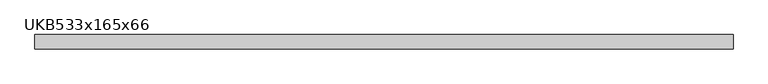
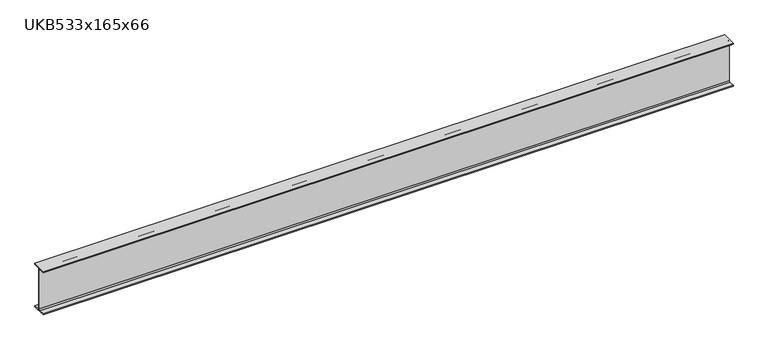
"""IFC4 building model written with IfcOpenShell, lengths in millimetres: beam geometry, UKB-UK Beams : UKB533x165x66."""

from ifc_helpers import new_model, si_unit, point, frame, frame_2d, origin, place, context, project, spatial, polyline, circle_curve, trimmed, segment, composite_curve, outline, extrude, source, transform, mapped, element, save


def ukb533x165x66_e4bb7340(model_context):
    return source(origin(), model_context, "Body", "SweptSolid", [
        extrude(outline(composite_curve([segment(polyline([(82.55, -250.95), (82.55, -262.35), (-82.55, -262.35), (-82.55, -250.95), (-17.15, -250.95)]), True, "CONTINUOUS"), segment(trimmed(circle_curve(frame_2d((-17.15, -238.25)), 12.7), [point((-17.15, -250.95))], [point((-4.45, -238.25))], True, "CARTESIAN"), True, "CONTINUOUS"), segment(polyline([(-4.45, -238.25), (-4.45, 238.25)]), True, "CONTINUOUS"), segment(trimmed(circle_curve(frame_2d((-17.15, 238.25)), 12.7), [point((-4.45, 238.25))], [point((-17.15, 250.95))], True, "CARTESIAN"), True, "CONTINUOUS"), segment(polyline([(-17.15, 250.95), (-82.55, 250.95), (-82.55, 262.35), (82.55, 262.35), (82.55, 250.95), (17.15, 250.95)]), True, "CONTINUOUS"), segment(trimmed(circle_curve(frame_2d((17.15, 238.25)), 12.7), [point((17.15, 250.95))], [point((4.45, 238.25))], True, "CARTESIAN"), True, "CONTINUOUS"), segment(polyline([(4.45, 238.25), (4.45, -238.25)]), True, "CONTINUOUS"), segment(trimmed(circle_curve(frame_2d((17.15, -238.25)), 12.7), [point((4.45, -238.25))], [point((17.15, -250.95))], True, "CARTESIAN"), True, "CONTINUOUS"), segment(polyline([(17.15, -250.95), (82.55, -250.95)]), True, "CONTINUOUS")], self_intersect=False)), frame((-3975.0, 0.0, 0.0), z_axis=(1.0, 0.0, 0.0), x_axis=(0.0, 1.0, 0.0)), (0.0, 0.0, 1.0), 7916.0),
    ])


if __name__ == "__main__":
    model = new_model("IFC4")
    model_context = context("Model", 3, world=origin())
    ifc_project = project(units=[si_unit("LENGTHUNIT", "METRE", prefix="MILLI")], contexts=[model_context])
    site = spatial("IfcSite", under=ifc_project)
    building = spatial("IfcBuilding", under=site)
    placement = place(None, origin())
    ukb533x165x66_shape = ukb533x165x66_e4bb7340(model_context)
    element("IfcBeam", 1, ObjectType="UKB-UK Beams : UKB533x165x66", at=placement, inside=building, context=model_context, shape_type="MappedRepresentation", body=[
        mapped(ukb533x165x66_shape, transform((0.0, 0.0, 0.0), x_axis=(1.0, 0.0, 0.0), y_axis=(0.0, 1.0, 0.0), z_axis=(0.0, 0.0, 1.0))),
    ])
    save(model, "model.ifc")
